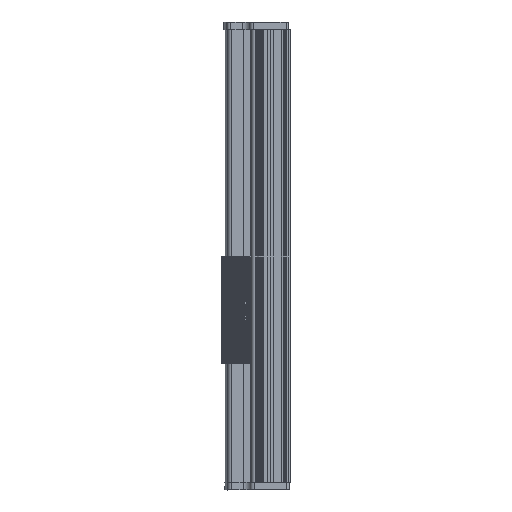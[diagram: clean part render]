
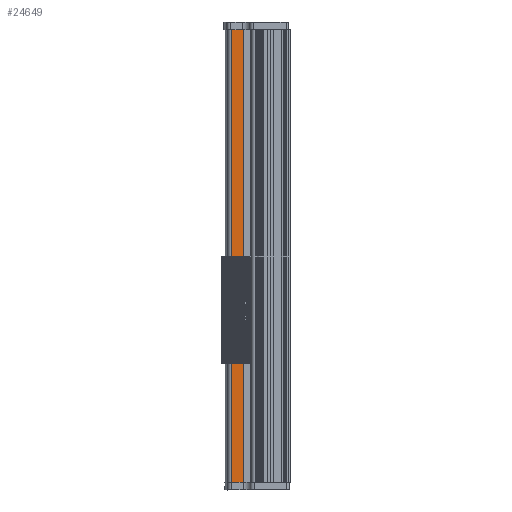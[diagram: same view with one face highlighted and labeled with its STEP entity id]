
A CAD part, left-side view. The second image highlights one B-rep face of the part: STEP entity #24649.
In plain terms, the highlighted planar face has unit normal (-1, 0, 0).
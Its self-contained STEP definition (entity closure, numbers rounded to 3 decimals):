
#3241 = VERTEX_POINT ( 'NONE', #21390 ) ;
#3480 = CARTESIAN_POINT ( 'NONE',  ( 0., 0., 0. ) ) ;
#5136 = CARTESIAN_POINT ( 'NONE',  ( 0., 14.658, 0. ) ) ;
#7264 = VECTOR ( 'NONE', #12633, 1000. ) ;
#7631 = ORIENTED_EDGE ( 'NONE', *, *, #34673, .T. ) ;
#8916 = CARTESIAN_POINT ( 'NONE',  ( 0., -1., 0. ) ) ;
#9395 = ORIENTED_EDGE ( 'NONE', *, *, #15683, .T. ) ;
#10165 = EDGE_CURVE ( 'NONE', #3241, #43412, #35470, .T. ) ;
#10583 = DIRECTION ( 'NONE',  ( 0., -1., 0. ) ) ;
#11549 = ORIENTED_EDGE ( 'NONE', *, *, #10165, .T. ) ;
#11599 = CARTESIAN_POINT ( 'NONE',  ( 0., 14.658, 590. ) ) ;
#12633 = DIRECTION ( 'NONE',  ( 0., 0., 1. ) ) ;
#14448 = CARTESIAN_POINT ( 'NONE',  ( 0., -1., 590. ) ) ;
#14679 = DIRECTION ( 'NONE',  ( 0., 0., -1. ) ) ;
#14777 = VERTEX_POINT ( 'NONE', #5136 ) ;
#15098 = DIRECTION ( 'NONE',  ( 0., 0., -1. ) ) ;
#15683 = EDGE_CURVE ( 'NONE', #21890, #14777, #35366, .T. ) ;
#20052 = CARTESIAN_POINT ( 'NONE',  ( 0., 0., 590. ) ) ;
#21390 = CARTESIAN_POINT ( 'NONE',  ( 0., -1., 0. ) ) ;
#21890 = VERTEX_POINT ( 'NONE', #11599 ) ;
#24649 = ADVANCED_FACE ( 'NONE', ( #35550 ), #25220, .F. ) ;
#25051 = LINE ( 'NONE', #20052, #35538 ) ;
#25220 = PLANE ( 'NONE',  #25929 ) ;
#25653 = CARTESIAN_POINT ( 'NONE',  ( 0., 14.658, 590. ) ) ;
#25929 = AXIS2_PLACEMENT_3D ( 'NONE', #42829, #35863, #14679 ) ;
#26251 = EDGE_LOOP ( 'NONE', ( #26523, #9395, #7631, #11549 ) ) ;
#26523 = ORIENTED_EDGE ( 'NONE', *, *, #33082, .F. ) ;
#30983 = VECTOR ( 'NONE', #10583, 1000. ) ;
#33082 = EDGE_CURVE ( 'NONE', #21890, #43412, #25051, .T. ) ;
#34673 = EDGE_CURVE ( 'NONE', #14777, #3241, #41493, .T. ) ;
#35366 = LINE ( 'NONE', #25653, #43682 ) ;
#35470 = LINE ( 'NONE', #8916, #7264 ) ;
#35538 = VECTOR ( 'NONE', #44751, 1000. ) ;
#35550 = FACE_OUTER_BOUND ( 'NONE', #26251, .T. ) ;
#35863 = DIRECTION ( 'NONE',  ( 1., 0., 0. ) ) ;
#41493 = LINE ( 'NONE', #3480, #30983 ) ;
#42829 = CARTESIAN_POINT ( 'NONE',  ( 0., 0., 590. ) ) ;
#43412 = VERTEX_POINT ( 'NONE', #14448 ) ;
#43682 = VECTOR ( 'NONE', #15098, 1000. ) ;
#44751 = DIRECTION ( 'NONE',  ( 0., -1., 0. ) ) ;
